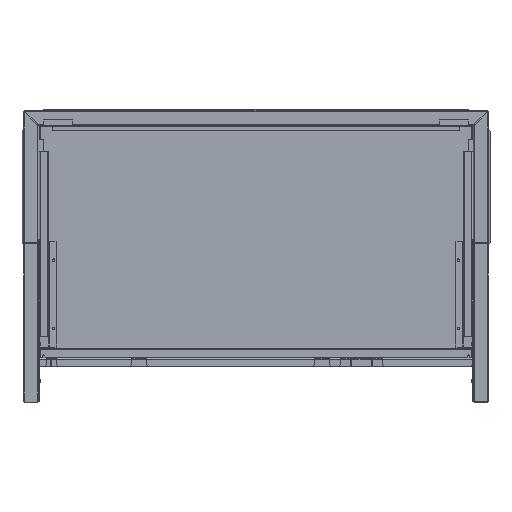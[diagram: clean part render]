
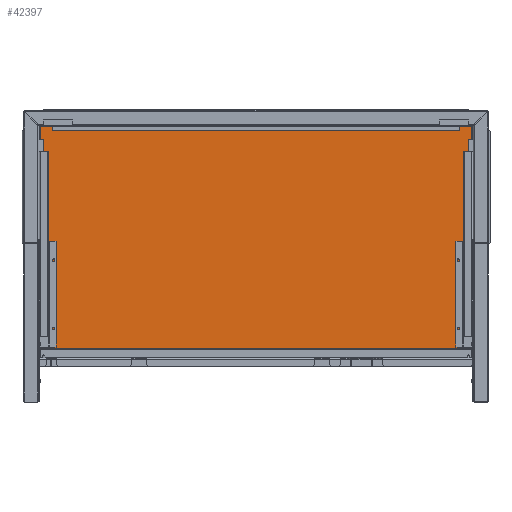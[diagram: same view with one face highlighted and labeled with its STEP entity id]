
A CAD part, front view. The second image highlights one B-rep face of the part: STEP entity #42397.
In plain terms, the highlighted planar face has unit normal (0, 1, 0).
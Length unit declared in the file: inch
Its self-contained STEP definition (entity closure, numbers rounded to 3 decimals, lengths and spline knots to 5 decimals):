
#168 = VECTOR ( 'NONE', #12394, 39.37008 ) ;
#2009 = PLANE ( 'NONE',  #28532 ) ;
#3510 = CARTESIAN_POINT ( 'NONE',  ( 12.11517, 68.87815, 0. ) ) ;
#3725 = ORIENTED_EDGE ( 'NONE', *, *, #48384, .T. ) ;
#4587 = ORIENTED_EDGE ( 'NONE', *, *, #25407, .T. ) ;
#5719 = DIRECTION ( 'NONE',  ( 0., 0., 1. ) ) ;
#9415 = CARTESIAN_POINT ( 'NONE',  ( 12.19904, 68.87815, 44.25 ) ) ;
#9484 = EDGE_CURVE ( 'NONE', #34324, #34183, #47722, .T. ) ;
#10833 = VERTEX_POINT ( 'NONE', #26158 ) ;
#11585 = VECTOR ( 'NONE', #27365, 39.37008 ) ;
#12210 = CARTESIAN_POINT ( 'NONE',  ( 12.11517, 68.87815, 44.25 ) ) ;
#12394 = DIRECTION ( 'NONE',  ( 0., 0., -1. ) ) ;
#12957 = CARTESIAN_POINT ( 'NONE',  ( -10.62908, 68.87815, 44.25 ) ) ;
#15828 = CARTESIAN_POINT ( 'NONE',  ( 12.19904, 68.87815, 44.25 ) ) ;
#21604 = FACE_OUTER_BOUND ( 'NONE', #26148, .T. ) ;
#23710 = LINE ( 'NONE', #34666, #25571 ) ;
#25407 = EDGE_CURVE ( 'NONE', #34183, #10833, #43532, .T. ) ;
#25571 = VECTOR ( 'NONE', #34829, 39.37008 ) ;
#26148 = EDGE_LOOP ( 'NONE', ( #32274, #4587, #40316, #3725 ) ) ;
#26158 = CARTESIAN_POINT ( 'NONE',  ( -10.62908, 68.87815, 0. ) ) ;
#27365 = DIRECTION ( 'NONE',  ( 1., 0., 0. ) ) ;
#28532 = AXIS2_PLACEMENT_3D ( 'NONE', #9415, #28801, #5719 ) ;
#28801 = DIRECTION ( 'NONE',  ( 0., 1., 0. ) ) ;
#32274 = ORIENTED_EDGE ( 'NONE', *, *, #9484, .T. ) ;
#33356 = LINE ( 'NONE', #15828, #11585 ) ;
#34183 = VERTEX_POINT ( 'NONE', #3510 ) ;
#34324 = VERTEX_POINT ( 'NONE', #38741 ) ;
#34666 = CARTESIAN_POINT ( 'NONE',  ( -10.62908, 68.87815, 44.25 ) ) ;
#34829 = DIRECTION ( 'NONE',  ( 0., 0., 1. ) ) ;
#35990 = EDGE_CURVE ( 'NONE', #10833, #45248, #23710, .T. ) ;
#37171 = CARTESIAN_POINT ( 'NONE',  ( 12.19904, 68.87815, 0. ) ) ;
#38741 = CARTESIAN_POINT ( 'NONE',  ( 12.11517, 68.87815, 44.25 ) ) ;
#40316 = ORIENTED_EDGE ( 'NONE', *, *, #35990, .T. ) ;
#42397 = ADVANCED_FACE ( 'NONE', ( #21604 ), #2009, .T. ) ;
#43532 = LINE ( 'NONE', #37171, #43780 ) ;
#43780 = VECTOR ( 'NONE', #48695, 39.37008 ) ;
#45248 = VERTEX_POINT ( 'NONE', #12957 ) ;
#47722 = LINE ( 'NONE', #12210, #168 ) ;
#48384 = EDGE_CURVE ( 'NONE', #45248, #34324, #33356, .T. ) ;
#48695 = DIRECTION ( 'NONE',  ( -1., 0., 0. ) ) ;
